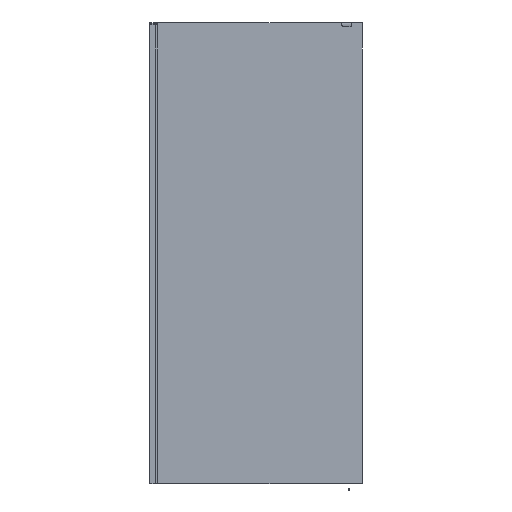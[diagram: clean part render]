
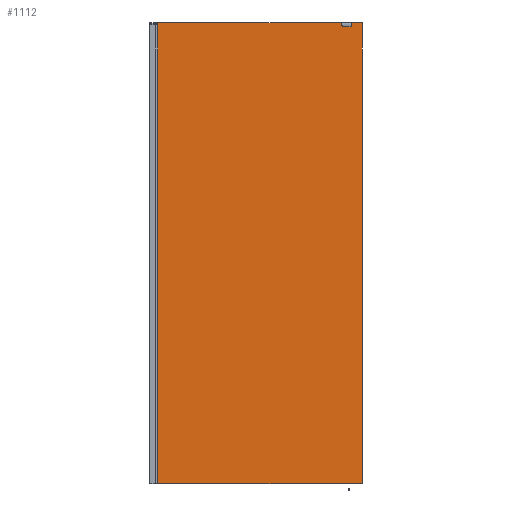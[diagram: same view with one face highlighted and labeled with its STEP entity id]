
A CAD part, front view. The second image highlights one B-rep face of the part: STEP entity #1112.
In plain terms, the highlighted planar face has unit normal (0, -1, 0) as drawn and (0, 0, 1) by its records, which use the part's own axes.
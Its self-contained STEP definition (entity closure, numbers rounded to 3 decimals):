
#997=DIRECTION('',(1.,0.,0.));
#998=VECTOR('',#997,875.);
#999=CARTESIAN_POINT('',(-437.5,-975.,8.));
#1000=LINE('',#999,#998);
#1001=DIRECTION('',(0.,-1.,0.));
#1002=VECTOR('',#1001,1950.);
#1003=CARTESIAN_POINT('',(-437.5,975.,8.));
#1004=LINE('',#1003,#1002);
#1005=DIRECTION('',(-1.,0.,0.));
#1006=VECTOR('',#1005,875.);
#1007=CARTESIAN_POINT('',(437.5,975.,8.));
#1008=LINE('',#1007,#1006);
#1009=DIRECTION('',(0.,1.,0.));
#1010=VECTOR('',#1009,1950.);
#1011=CARTESIAN_POINT('',(437.5,-975.,8.));
#1012=LINE('',#1011,#1010);
#1021=CARTESIAN_POINT('',(-437.5,-975.,8.));
#1022=CARTESIAN_POINT('',(437.5,-975.,8.));
#1023=VERTEX_POINT('',#1021);
#1024=VERTEX_POINT('',#1022);
#1025=CARTESIAN_POINT('',(437.5,975.,8.));
#1026=VERTEX_POINT('',#1025);
#1027=CARTESIAN_POINT('',(-437.5,975.,8.));
#1028=VERTEX_POINT('',#1027);
#1101=CARTESIAN_POINT('',(0.,0.,8.));
#1102=DIRECTION('',(0.,0.,1.));
#1103=DIRECTION('',(1.,0.,0.));
#1104=AXIS2_PLACEMENT_3D('',#1101,#1102,#1103);
#1105=PLANE('',#1104);
#1106=ORIENTED_EDGE('',*,*,#1053,.F.);
#1107=ORIENTED_EDGE('',*,*,#1068,.F.);
#1108=ORIENTED_EDGE('',*,*,#1082,.F.);
#1109=ORIENTED_EDGE('',*,*,#1095,.F.);
#1110=EDGE_LOOP('',(#1106,#1107,#1108,#1109));
#1111=FACE_OUTER_BOUND('',#1110,.F.);
#1112=ADVANCED_FACE('',(#1111),#1105,.T.);
#1053=EDGE_CURVE('',#1023,#1024,#1000,.T.);
#1068=EDGE_CURVE('',#1028,#1023,#1004,.T.);
#1082=EDGE_CURVE('',#1026,#1028,#1008,.T.);
#1095=EDGE_CURVE('',#1024,#1026,#1012,.T.);
